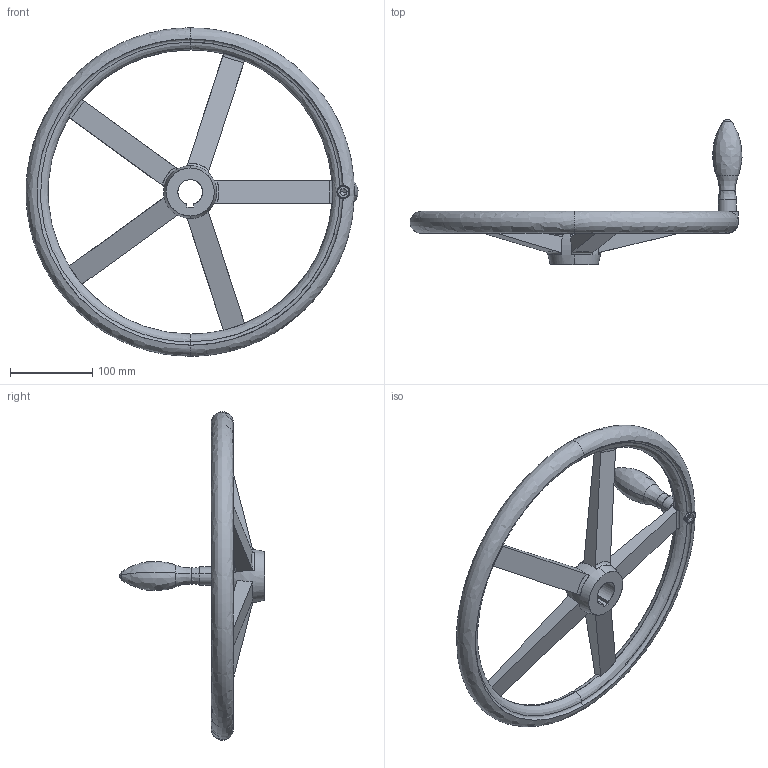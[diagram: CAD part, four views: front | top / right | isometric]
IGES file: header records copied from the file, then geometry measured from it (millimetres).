
Start section: SolidWorks IGES file using analytic representation for surfaces
Global section: file name: C:\Users\IanO\Desktop\Temp File\Process pending\77120_v2\77120_v2_20171108_IGES\77120.W0550.igs; native system: SolidWorks 2017; preprocessor: SolidWorks 2017; author: IanO; date: 171108.083951; units: millimetre
Bounding box: 404.3 x 177 x 400 mm (x, y, z)
Surface area: 185008.6 mm2 (no closed solid volume)
Topology: 0 solids, 0 shells, 141 faces, 1877 edges, 1868 vertices
Faces by surface type: bspline 76, revolution 65
